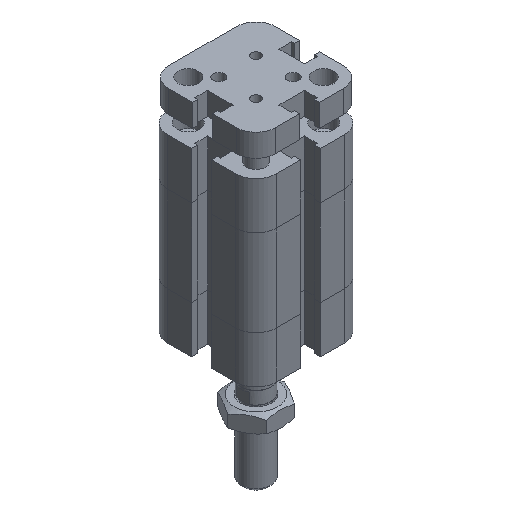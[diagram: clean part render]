
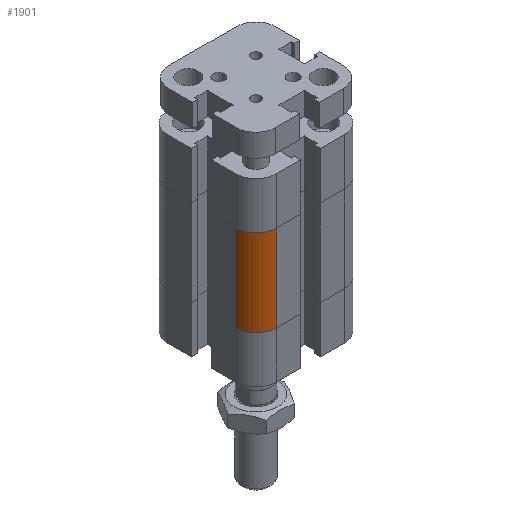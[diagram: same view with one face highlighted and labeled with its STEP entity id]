
A CAD part, isometric view. The second image highlights one B-rep face of the part: STEP entity #1901.
In plain terms, the highlighted cylindrical face has radius 5.5 mm (diameter 11 mm), a partial arc.
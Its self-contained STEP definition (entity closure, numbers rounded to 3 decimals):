
#1812=CARTESIAN_POINT('',(-14.5,-9.,12.5));
#1813=VERTEX_POINT('',#1812);
#1820=CARTESIAN_POINT('',(-14.5,-9.,35.5));
#1821=VERTEX_POINT('',#1820);
#1822=CARTESIAN_POINT('',(-14.5,-9.,12.5));
#1823=DIRECTION('',(0.0,0.0,1.0));
#1824=VECTOR('',#1823,23.);
#1825=LINE('',#1822,#1824);
#1826=EDGE_CURVE('',#1813,#1821,#1825,.T.);
#1869=CARTESIAN_POINT('',(-9.,-9.,0.0));
#1870=DIRECTION('',(0.0,0.0,1.0));
#1871=DIRECTION('',(1.0,0.0,0.0));
#1872=AXIS2_PLACEMENT_3D('',#1869,#1870,#1871);
#1873=CYLINDRICAL_SURFACE('',#1872,5.5);
#1874=CARTESIAN_POINT('',(-9.,-14.5,12.5));
#1875=VERTEX_POINT('',#1874);
#1876=CARTESIAN_POINT('',(-9.,-9.,12.5));
#1877=DIRECTION('',(0.0,0.0,1.0));
#1878=DIRECTION('',(1.0,0.0,0.0));
#1879=AXIS2_PLACEMENT_3D('',#1876,#1877,#1878);
#1880=CIRCLE('',#1879,5.5);
#1881=EDGE_CURVE('',#1813,#1875,#1880,.T.);
#1882=ORIENTED_EDGE('',*,*,#1881,.T.);
#1883=CARTESIAN_POINT('',(-9.,-14.5,35.5));
#1884=VERTEX_POINT('',#1883);
#1885=CARTESIAN_POINT('',(-9.,-14.5,12.5));
#1886=DIRECTION('',(0.0,0.0,1.0));
#1887=VECTOR('',#1886,23.);
#1888=LINE('',#1885,#1887);
#1889=EDGE_CURVE('',#1875,#1884,#1888,.T.);
#1890=ORIENTED_EDGE('',*,*,#1889,.T.);
#1891=CARTESIAN_POINT('',(-9.,-9.,35.5));
#1892=DIRECTION('',(0.0,0.0,1.0));
#1893=DIRECTION('',(1.0,0.0,0.0));
#1894=AXIS2_PLACEMENT_3D('',#1891,#1892,#1893);
#1895=CIRCLE('',#1894,5.5);
#1896=EDGE_CURVE('',#1821,#1884,#1895,.T.);
#1897=ORIENTED_EDGE('',*,*,#1896,.F.);
#1898=ORIENTED_EDGE('',*,*,#1826,.F.);
#1899=EDGE_LOOP('',(#1882,#1890,#1897,#1898));
#1900=FACE_OUTER_BOUND('',#1899,.T.);
#1901=ADVANCED_FACE('',(#1900),#1873,.T.);
